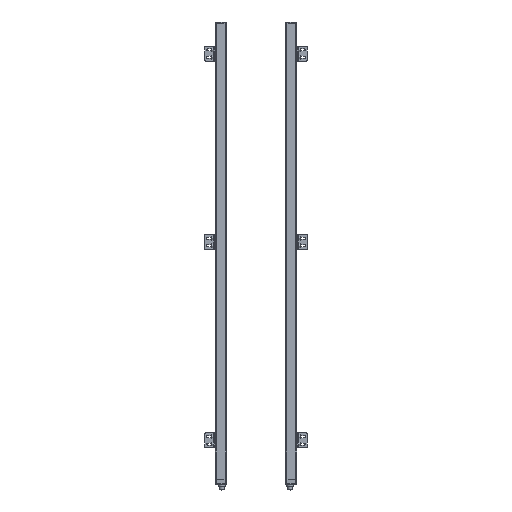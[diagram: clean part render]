
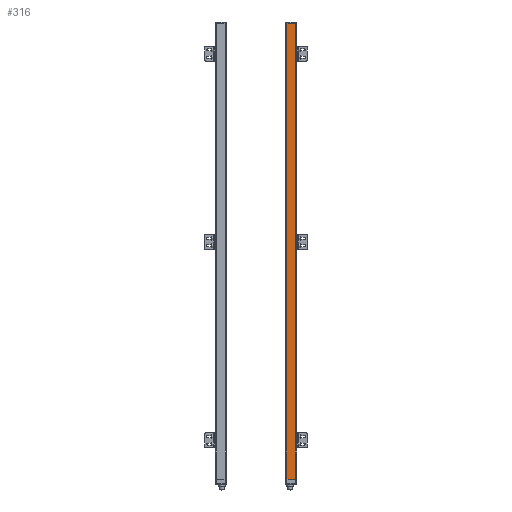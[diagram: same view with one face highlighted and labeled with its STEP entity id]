
A CAD part, top view. The second image highlights one B-rep face of the part: STEP entity #316.
In plain terms, the highlighted planar face has unit normal (0, 0, 1).
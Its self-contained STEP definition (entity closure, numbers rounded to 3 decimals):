
#316 = ADVANCED_FACE( '', ( #734 ), #735, .F. );
#734 = FACE_OUTER_BOUND( '', #1452, .T. );
#735 = PLANE( '', #1453 );
#1452 = EDGE_LOOP( '', ( #2754, #2755, #2756, #2757 ) );
#1453 = AXIS2_PLACEMENT_3D( '', #2758, #2759, #2760 );
#2754 = ORIENTED_EDGE( '', *, *, #5011, .T. );
#2755 = ORIENTED_EDGE( '', *, *, #4927, .T. );
#2756 = ORIENTED_EDGE( '', *, *, #5010, .F. );
#2757 = ORIENTED_EDGE( '', *, *, #4792, .F. );
#2758 = CARTESIAN_POINT( '', ( 3.66, 1247.5, 14.01 ) );
#2759 = DIRECTION( '', ( 0., 0., -1. ) );
#2760 = DIRECTION( '', ( -1., 0., 0. ) );
#4792 = EDGE_CURVE( '', #5745, #5747, #5748, .T. );
#4927 = EDGE_CURVE( '', #6001, #5999, #6002, .T. );
#5010 = EDGE_CURVE( '', #5747, #5999, #6129, .T. );
#5011 = EDGE_CURVE( '', #5745, #6001, #6130, .T. );
#5745 = VERTEX_POINT( '', #7322 );
#5747 = VERTEX_POINT( '', #7324 );
#5748 = LINE( '', #7325, #7326 );
#5999 = VERTEX_POINT( '', #7650 );
#6001 = VERTEX_POINT( '', #7652 );
#6002 = LINE( '', #7653, #7654 );
#6129 = LINE( '', #7839, #7840 );
#6130 = LINE( '', #7841, #7842 );
#7322 = CARTESIAN_POINT( '', ( 3.66, 1244.5, 14.01 ) );
#7324 = CARTESIAN_POINT( '', ( 27.672, 1244.5, 14.01 ) );
#7325 = CARTESIAN_POINT( '', ( 3.66, 1244.5, 14.01 ) );
#7326 = VECTOR( '', #9185, 1000. );
#7650 = CARTESIAN_POINT( '', ( 27.672, 14., 14.01 ) );
#7652 = CARTESIAN_POINT( '', ( 3.66, 14., 14.01 ) );
#7653 = CARTESIAN_POINT( '', ( 3.66, 14., 14.01 ) );
#7654 = VECTOR( '', #9442, 1000. );
#7839 = CARTESIAN_POINT( '', ( 27.672, 1247.5, 14.01 ) );
#7840 = VECTOR( '', #9573, 1000. );
#7841 = CARTESIAN_POINT( '', ( 3.66, 1247.5, 14.01 ) );
#7842 = VECTOR( '', #9574, 1000. );
#9185 = DIRECTION( '', ( 1., 0., 0. ) );
#9442 = DIRECTION( '', ( 1., 0., 0. ) );
#9573 = DIRECTION( '', ( 0., -1., 0. ) );
#9574 = DIRECTION( '', ( 0., -1., 0. ) );
